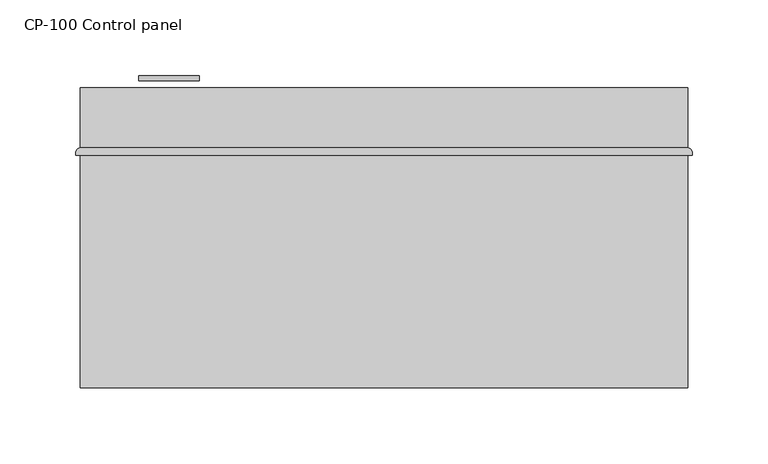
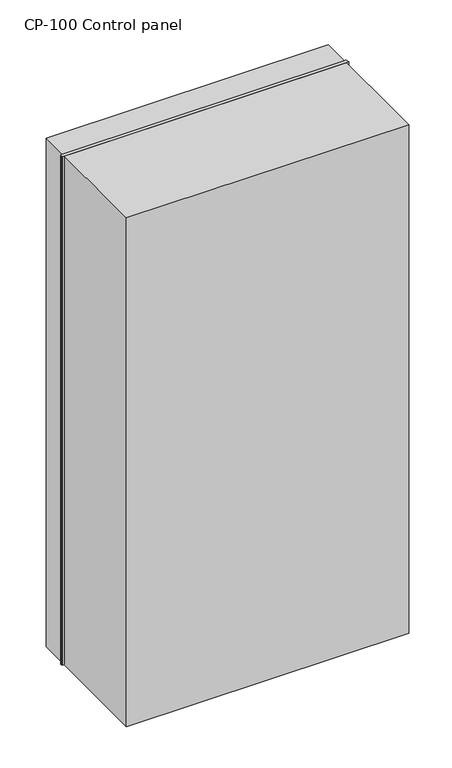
"""IFC4 building model written with IfcOpenShell, lengths in millimetres: proxy geometry, CP-100_Control_Panel_Wallmount_BIM_Model : CP-100 Control panel."""

from ifc_helpers import new_model, si_unit, point, frame, frame_2d, origin, place, context, project, spatial, polyline, circle_curve, trimmed, segment, composite_curve, outline, extrude, source, transform, mapped, element, save


def cp_100_control_panel_b2e4bc5f(model_context):
    return source(origin(), model_context, "Body", "SweptSolid", [
        extrude(outline(composite_curve([segment(trimmed(circle_curve(frame_2d((841.0, -16.7274277)), 20.0), [point((841.0, -36.7274277))], [point((841.0, 3.2725723))], False, "CARTESIAN"), True, "CONTINUOUS"), segment(trimmed(circle_curve(frame_2d((841.0, -16.7274277)), 20.0), [point((841.0, 3.2725723))], [point((841.0, -36.7274277))], False, "CARTESIAN"), True, "CONTINUOUS")], self_intersect=False), holes=[polyline([(848.2746144, -18.5031745), (848.2746144, -13.5031745), (833.2746144, -13.5031745), (833.2746144, -18.5031745), (848.2746144, -18.5031745)])]), frame((0.0, 232.8817149, 0.0), z_axis=(0.0, 1.0, 0.0), x_axis=(0.0, 0.0, 1.0)), (0.0, 0.0, 1.0), 3.0),
        extrude(outline(composite_curve([segment(trimmed(circle_curve(frame_2d((325.0, 185.4510361)), 3.0), [point((325.0, 188.4510361))], [point((328.0, 185.4510361))], False, "CARTESIAN"), True, "CONTINUOUS"), segment(polyline([(328.0, 185.4510361), (328.0, 183.5693212), (-78.0, 183.5693212), (-78.0, 185.4510361)]), True, "CONTINUOUS"), segment(trimmed(circle_curve(frame_2d((-75.0, 185.4510361)), 3.0), [point((-78.0, 185.4510361))], [point((-75.0, 188.4510361))], False, "CARTESIAN"), True, "CONTINUOUS"), segment(polyline([(-75.0, 188.4510361), (325.0, 188.4510361)]), True, "CONTINUOUS")], self_intersect=False)), frame((0.0, 0.0, 460.0), z_axis=(0.0, 0.0, 1.0), x_axis=(1.0, 0.0, 0.0)), (0.0, 0.0, 1.0), 762.0),
        extrude(outline(polyline([(325.0, 228.0), (325.0, 30.5693212), (-75.0, 30.5693212), (-75.0, 228.0), (325.0, 228.0)])), frame((0.0, 0.0, 460.0), z_axis=(0.0, 0.0, 1.0), x_axis=(1.0, 0.0, 0.0)), (0.0, 0.0, 1.0), 762.0),
    ])


if __name__ == "__main__":
    model = new_model("IFC4")
    model_context = context("Model", 3, world=origin())
    ifc_project = project(units=[si_unit("LENGTHUNIT", "METRE", prefix="MILLI")], contexts=[model_context])
    site = spatial("IfcSite", under=ifc_project)
    building = spatial("IfcBuilding", under=site)
    placement = place(None, origin())
    cp_100_control_panel_shape = cp_100_control_panel_b2e4bc5f(model_context)
    element("IfcBuildingElementProxy", 1, Name="CP-100_Control_Panel_Wallmount_BIM_Model : CP-100 Control panel", ObjectType="CP-100_Control_Panel_Wallmount_BIM_Model : CP-100 Control panel", at=placement, inside=building, context=model_context, shape_type="MappedRepresentation", body=[
        mapped(cp_100_control_panel_shape, transform((0.0, 0.0, 0.0), x_axis=(1.0, 0.0, 0.0), y_axis=(0.0, 1.0, 0.0), z_axis=(0.0, 0.0, 1.0))),
    ])
    save(model, "model.ifc")
